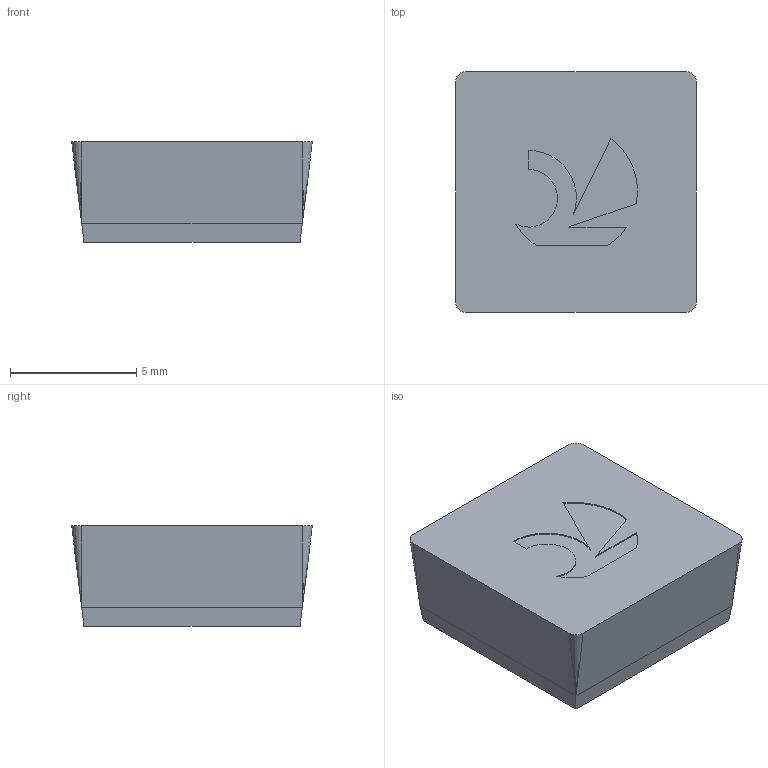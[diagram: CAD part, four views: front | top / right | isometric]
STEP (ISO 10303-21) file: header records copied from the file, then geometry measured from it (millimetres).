
FILE_DESCRIPTION(('no description'),'unknown implementation level');
FILE_NAME('solidKM3VtXBJ7Z7ioaykNk8OkDUPjQE_1.STP',' ',('CIMSOURCE GmbH'),('CADClick - KiM GmbH - www.kimweb.de'),'unknown preprocess','ACIS','unknown authorization');
FILE_SCHEMA(('automotive_design'));
Length unit declared in the file: millimetre
Products named in the file (1): CUT
Bounding box: 9.53 x 9.53 x 3.97 mm (x, y, z)
Volume: 323.9 mm3; surface area: 308.3 mm2
Topology: 1 solids, 1 shells, 26 faces, 65 edges, 38 vertices
Faces by surface type: plane 16, cylinder 6, cone 4
Entity records: 1474 total; most frequent: DIRECTION 135, CARTESIAN_POINT 128, STYLED_ITEM 126, PRESENTATION_STYLE_ASSIGNMENT 126, COLOUR_RGB 126, ORIENTED_EDGE 122, EDGE_CURVE 61, CURVE_STYLE 61
